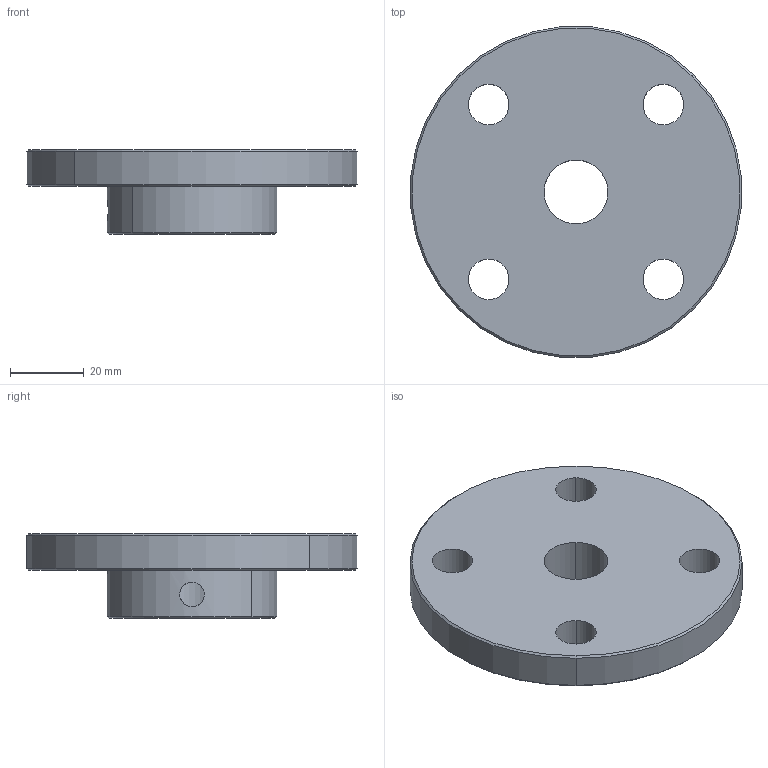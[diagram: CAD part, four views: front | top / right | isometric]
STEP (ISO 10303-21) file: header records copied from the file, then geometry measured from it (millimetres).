
FILE_DESCRIPTION (( 'STEP AP203' ), '1' );
FILE_NAME ('MJ3-FP.STEP', '2024-01-15T15:13:10', ( '' ), ( '' ), 'SwSTEP 2.0', 'SolidWorks 2022', '' );
FILE_SCHEMA (( 'CONFIG_CONTROL_DESIGN' ));
Length unit declared in the file: millimetre
Products named in the file (1): MJ3-FP
Bounding box: 89.66 x 89.66 x 23 mm (x, y, z)
Volume: 75427.9 mm3; surface area: 18856.4 mm2
Topology: 1 solids, 1 shells, 25 faces, 60 edges, 38 vertices
Faces by surface type: cylinder 16, cone 6, plane 3
Entity records: 993 total; most frequent: CARTESIAN_POINT 284, DIRECTION 142, ORIENTED_EDGE 120, EDGE_CURVE 60, AXIS2_PLACEMENT_3D 60, VERTEX_POINT 38, EDGE_LOOP 38, CIRCLE 34
